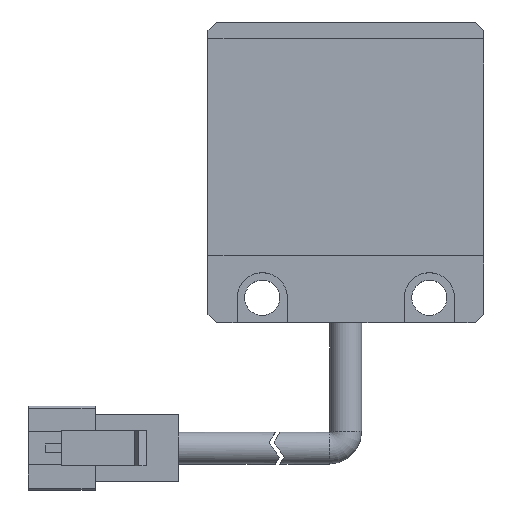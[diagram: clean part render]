
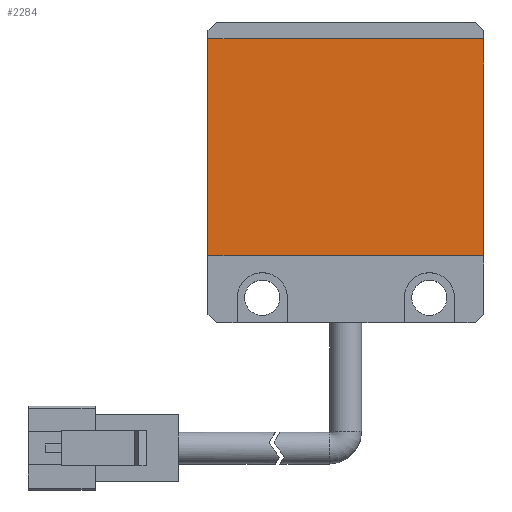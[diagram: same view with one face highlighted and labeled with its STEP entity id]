
A CAD part, top view. The second image highlights one B-rep face of the part: STEP entity #2284.
In plain terms, the highlighted planar face has unit normal (0, 0, 1).
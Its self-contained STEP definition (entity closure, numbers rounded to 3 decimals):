
#231=FACE_OUTER_BOUND('',#366,.T.);
#366=EDGE_LOOP('',(#2056,#2057,#2058,#2059));
#630=LINE('',#3748,#890);
#635=LINE('',#3759,#895);
#637=LINE('',#3762,#897);
#638=LINE('',#3763,#898);
#890=VECTOR('',#3091,10.);
#895=VECTOR('',#3100,10.);
#897=VECTOR('',#3104,10.);
#898=VECTOR('',#3105,10.);
#1103=VERTEX_POINT('',#3741);
#1106=VERTEX_POINT('',#3746);
#1109=VERTEX_POINT('',#3756);
#1110=VERTEX_POINT('',#3758);
#1421=EDGE_CURVE('',#1106,#1103,#630,.T.);
#1426=EDGE_CURVE('',#1110,#1109,#635,.T.);
#1428=EDGE_CURVE('',#1109,#1103,#637,.T.);
#1429=EDGE_CURVE('',#1106,#1110,#638,.T.);
#2056=ORIENTED_EDGE('',*,*,#1428,.T.);
#2057=ORIENTED_EDGE('',*,*,#1421,.F.);
#2058=ORIENTED_EDGE('',*,*,#1429,.T.);
#2059=ORIENTED_EDGE('',*,*,#1426,.T.);
#2163=PLANE('',#2482);
#2284=ADVANCED_FACE('',(#231),#2163,.T.);
#2482=AXIS2_PLACEMENT_3D('',#3761,#3102,#3103);
#3091=DIRECTION('',(1.,0.,0.));
#3100=DIRECTION('',(1.,0.,0.));
#3102=DIRECTION('center_axis',(0.,0.,1.));
#3103=DIRECTION('ref_axis',(0.,-1.,0.));
#3104=DIRECTION('',(0.,1.,0.));
#3105=DIRECTION('',(0.,-1.,0.));
#3741=CARTESIAN_POINT('',(16.5,16.7,8.9));
#3746=CARTESIAN_POINT('',(-16.5,16.7,8.9));
#3748=CARTESIAN_POINT('',(-16.5,16.7,8.9));
#3756=CARTESIAN_POINT('',(16.5,-10.7,8.9));
#3758=CARTESIAN_POINT('',(-16.5,-10.7,8.9));
#3759=CARTESIAN_POINT('',(-16.5,-10.7,8.9));
#3761=CARTESIAN_POINT('Origin',(-16.5,16.7,8.9));
#3762=CARTESIAN_POINT('',(16.5,9.85,8.9));
#3763=CARTESIAN_POINT('',(-16.5,16.7,8.9));
